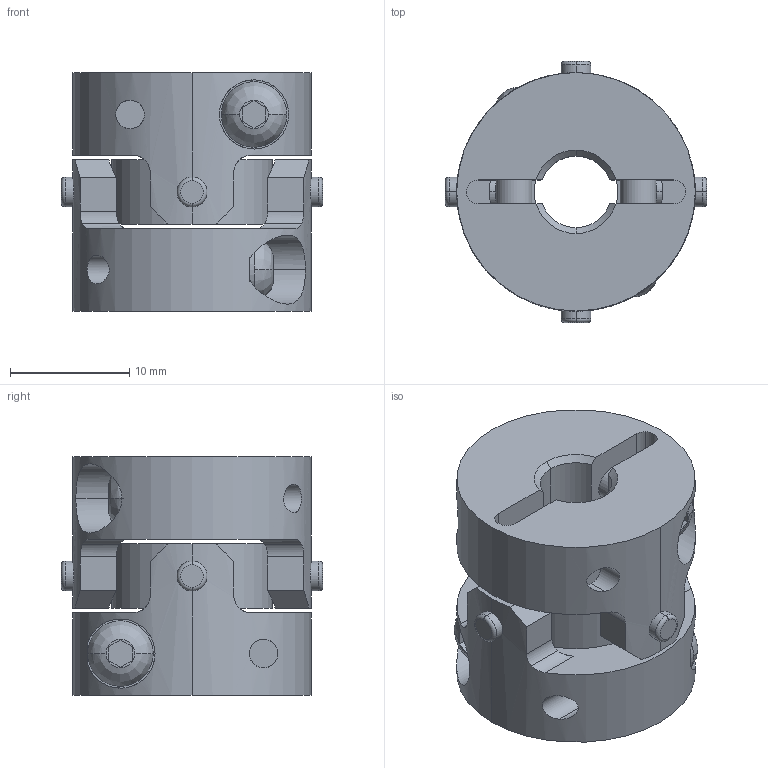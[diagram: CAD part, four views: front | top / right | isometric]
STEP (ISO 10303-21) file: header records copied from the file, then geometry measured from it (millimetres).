
FILE_DESCRIPTION((''),'2;1');
FILE_NAME('UA-20C-6×8.stp','2013-05-16T09:10:04',(''),(''),'AutoCAD STEP 2000i','AutoCAD 2000i',', , ');
FILE_SCHEMA(('CONFIG_CONTROL_DESIGN'));
Length unit declared in the file: millimetre
Products named in the file (7): UA-20C-4×7; 忣兜1; UA-2002-D07; BTN-M3; UA-2002-D04-1; UA-2002-D04; UA20-SEN
Assembly tree (8 placements, depth 3):
  UA-20C-4×7
    忣兜1
    UA-2002-D07
      BTN-M3
    UA-2002-D04-1
      BTN-M3
    UA-2002-D04
      BTN-M3
    UA20-SEN
Bounding box: 21.89 x 21.89 x 20 mm (x, y, z)
Volume: 4328 mm3; surface area: 3829.4 mm2
Topology: 1 solids, 1 shells, 206 faces, 554 edges, 364 vertices
Faces by surface type: cylinder 96, plane 78, cone 16, bspline 8, torus 8
Entity records: 8025 total; most frequent: CARTESIAN_POINT 2689, ORIENTED_EDGE 1108, DIRECTION 1068, EDGE_CURVE 554, AXIS2_PLACEMENT_3D 411, VERTEX_POINT 364, VECTOR 246, LINE 246
